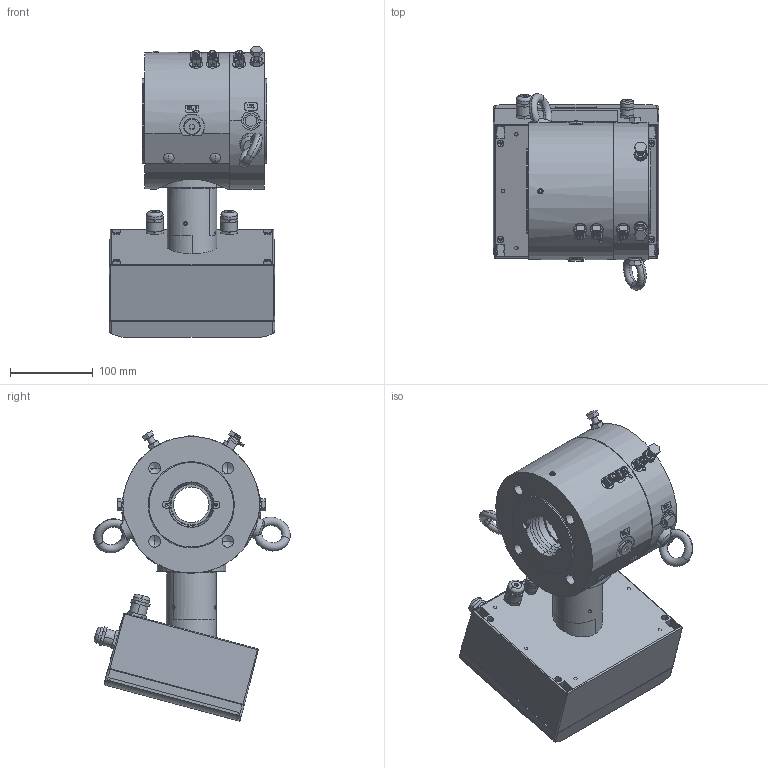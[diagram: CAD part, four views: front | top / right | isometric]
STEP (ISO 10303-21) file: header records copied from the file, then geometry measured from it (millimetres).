
FILE_DESCRIPTION((''),'2;1');
FILE_NAME('STANDARD_SW0001','2023-09-07T11:19:03',('R85801'),(''),'CREO PARAMETRIC BY PTC INC, 2022281','CREO PARAMETRIC BY PTC INC, 2022281','');
FILE_SCHEMA(('AP242_MANAGED_MODEL_BASED_3D_ENGINEERING_MIM_LF { 1 0 10303 442 1 1 4 }'));
Products named in the file (2): STANDARD_SW0001; 10038_S235JRG2
Bounding box: 200 x 237.17 x 350.66 mm (x, y, z)
Volume: 3034148.9 mm3; surface area: 592170.7 mm2
Topology: 12 solids, 22 shells, 3859 faces, 9745 edges, 6150 vertices
Faces by surface type: plane 1857, cylinder 673, extrusion 632, cone 354, torus 251, bspline 60, sphere 32
Entity records: 185394 total; most frequent: CARTESIAN_POINT 32303, ORIENTED_EDGE 19302, DIRECTION 17265, PRESENTATION_STYLE_ASSIGNMENT 14015, STYLED_ITEM 10300, CURVE_STYLE 10287, EDGE_CURVE 9651, VECTOR 6453
